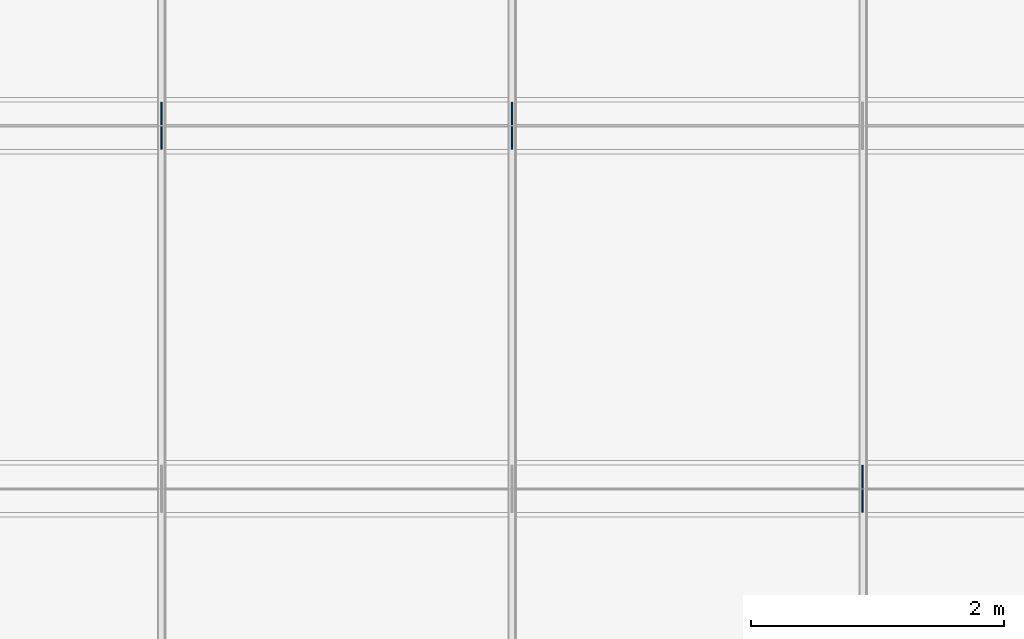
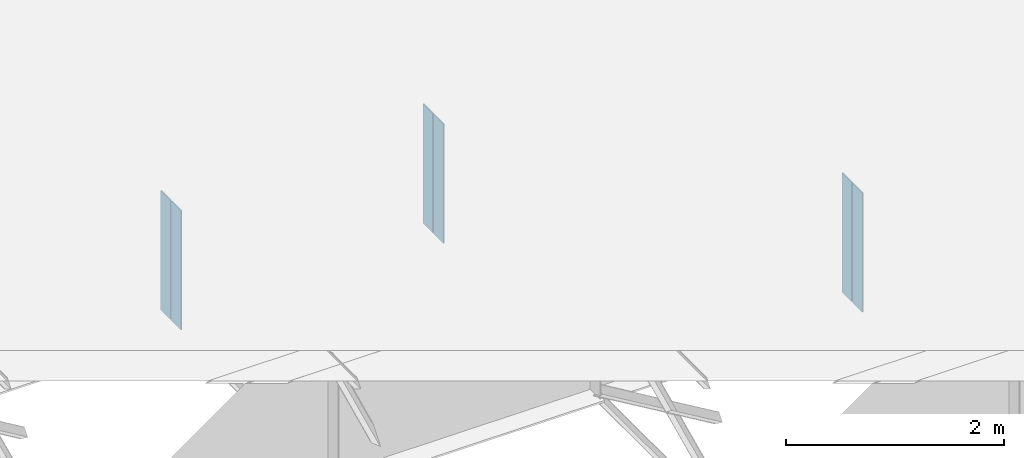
# One storey, part 6 of 10: 6 plates.
"""IFC4 building model written with IfcOpenShell, lengths in metres."""

import ifcopenshell
import ifcopenshell.guid

model = None  # the IFC model being written
_history = None  # IfcOwnerHistory: only IFC2X3 demands one
_inside = {}  # id of a spatial element -> (the spatial element, [elements in it])
_under = {}  # id of a project, library or spatial element -> (it, [spatial elements below it])
_declared = {}  # id of a project -> (the project, [libraries it declares])
_typed = {}  # id of a type object -> (the type object, [elements of that type])
_made_of = {}  # id of a material, layer set ... -> (it, [elements and type objects made of it])


def new_model(schema):
    """Start an empty IFC model of exactly this schema.

    Asked for "IFC4X3", IfcOpenShell would pick the latest addendum, in which some entities
    have other attributes; the version numbers below select the first issue.
    IFC2X3 requires an IfcOwnerHistory on every rooted entity: one is made here for all.
    """
    global model, _history
    if schema == "IFC4X3":
        model = ifcopenshell.file(schema_version=(4, 3, 0, 0))
    else:
        model = ifcopenshell.file(schema=schema)
    _inside.clear()
    _under.clear()
    _declared.clear()
    _typed.clear()
    _made_of.clear()
    _history = None
    if model.schema == "IFC2X3":
        org = make("IfcOrganization", Name="unknown")
        user = make(
            "IfcPersonAndOrganization",
            ThePerson=make("IfcPerson", FamilyName="unknown"),
            TheOrganization=org,
        )
        app = make(
            "IfcApplication",
            ApplicationDeveloper=org,
            Version="unknown",
            ApplicationFullName="unknown",
            ApplicationIdentifier="unknown",
        )
        _history = make(
            "IfcOwnerHistory",
            OwningUser=user,
            OwningApplication=app,
            ChangeAction="ADDED",
            CreationDate=0,
        )
    return model


def make(cls, **values):
    """One entity of the class cls with the attributes given. An attribute that is None is left unset."""
    return model.create_entity(
        cls, **{name: value for name, value in values.items() if value is not None}
    )


def rooted(cls, **values):
    """An entity with a GlobalId (a new one), such as an element, a storey or a relation."""
    return make(cls, GlobalId=ifcopenshell.guid.new(), OwnerHistory=_history, **values)


def si_unit(unit_type, name, prefix=None):
    """IfcSIUnit, for example si_unit("LENGTHUNIT", "METRE", prefix="MILLI")."""
    return make("IfcSIUnit", UnitType=unit_type, Prefix=prefix, Name=name)


def assignment(units):
    """IfcUnitAssignment: the units of a project."""
    return None if units is None else make("IfcUnitAssignment", Units=units)


def point(xyz):
    """IfcCartesianPoint."""
    return None if xyz is None else make("IfcCartesianPoint", Coordinates=xyz)


def direction(xyz):
    """IfcDirection."""
    return None if xyz is None else make("IfcDirection", DirectionRatios=xyz)


def frame(location, z_axis=None, x_axis=None):
    """IfcAxis2Placement3D, a coordinate frame: its origin and axes. An axis left out is left unset."""
    return make(
        "IfcAxis2Placement3D",
        Location=point(location),
        Axis=direction(z_axis),
        RefDirection=direction(x_axis),
    )


def frame_2d(location, x_axis=None):
    """IfcAxis2Placement2D, a coordinate frame in the plane: its origin and x axis."""
    return make(
        "IfcAxis2Placement2D", Location=point(location), RefDirection=direction(x_axis)
    )


def origin():
    """The frame at (0, 0, 0) with its axes left unset."""
    return frame((0.0, 0.0, 0.0))


def origin_with_axes():
    """The frame at (0, 0, 0) with the z axis (0, 0, 1) and the x axis (1, 0, 0) written out."""
    return frame((0.0, 0.0, 0.0), z_axis=(0.0, 0.0, 1.0), x_axis=(1.0, 0.0, 0.0))


def origin_2d_with_axis():
    """The frame at (0, 0) in the plane with the x axis (1, 0) written out."""
    return frame_2d((0.0, 0.0), x_axis=(1.0, 0.0))


def place(relative_to, where):
    """IfcLocalPlacement: puts the frame where relative to a parent placement (None: the world)."""
    return make(
        "IfcLocalPlacement", PlacementRelTo=relative_to, RelativePlacement=where
    )


def context(
    kind, dimensions, precision=None, world=None, true_north=None, identifier=None
):
    """IfcGeometricRepresentationContext, for example the 3D "Model" context."""
    return make(
        "IfcGeometricRepresentationContext",
        ContextIdentifier=identifier,
        ContextType=kind,
        CoordinateSpaceDimension=dimensions,
        Precision=precision,
        WorldCoordinateSystem=world,
        TrueNorth=true_north,
    )


def subcontext(parent, identifier, kind, view, scale=None):
    """IfcGeometricRepresentationSubContext, for example "Body" below "Model"."""
    return make(
        "IfcGeometricRepresentationSubContext",
        ContextIdentifier=identifier,
        ContextType=kind,
        ParentContext=parent,
        TargetScale=scale,
        TargetView=view,
    )


def project(units=None, contexts=None):
    """IfcProject with its units and contexts."""
    return rooted(
        "IfcProject",
        Name="project",
        RepresentationContexts=contexts,
        UnitsInContext=assignment(units),
    )


def spatial(cls, under=None, at=None, **own):
    """A site, building, storey or space (cls), placed at a placement, below another one or the project."""
    s = rooted(cls, ObjectPlacement=at, **own)
    if under is not None:
        _under.setdefault(under.id(), (under, []))[1].append(s)
    return s


def profile(cls, at=None, kind="AREA", **sizes):
    """A parametric profile (cls). Its sizes go by their IFC names, for example OverallWidth=200.0."""
    return make(cls, ProfileType=kind, Position=at, **sizes)


def rectangle(**sizes):
    """IfcRectangleProfileDef."""
    return profile("IfcRectangleProfileDef", **sizes)


def extrude(swept, where, along, depth):
    """IfcExtrudedAreaSolid: the profile swept, set in the frame where, extruded along a direction by depth."""
    return make(
        "IfcExtrudedAreaSolid",
        SweptArea=swept,
        Position=where,
        ExtrudedDirection=direction(along),
        Depth=depth,
    )


def shape(context_of_items, identifier, shape_type, items):
    """IfcShapeRepresentation: the items that make up one representation, for example the "Body"."""
    return make(
        "IfcShapeRepresentation",
        ContextOfItems=context_of_items,
        RepresentationIdentifier=identifier,
        RepresentationType=shape_type,
        Items=items,
    )


def made_of(thing, what):
    """Note that an element or type object is made of a material, layer set ...; save() writes the relation."""
    if what is not None:
        _made_of.setdefault(what.id(), (what, []))[1].append(thing)
    return thing


def element(
    cls,
    number,
    at=None,
    inside=None,
    cuts=None,
    type_object=None,
    material=None,
    context=None,
    identifier="Body",
    shape_type=None,
    held_by="IfcProductDefinitionShape",
    body=None,
    shapes=None,
    **own,
):
    """One element of the class cls, such as IfcWall. Its Tag is "e" and its number.

    at: its placement. inside: the storey or other place that contains it. cuts: it is an
    opening in that element (IfcRelVoidsElement). A single representation is given by context,
    identifier, shape_type and body (its items); several are given by shapes. held_by: the class
    of the entity that holds the representations. save() writes the other relations.
    """
    e = rooted(cls, Tag="e%d" % number, ObjectPlacement=at, **own)
    if body is not None:
        shapes = [shape(context, identifier, shape_type, body)]
    if shapes is not None:
        e.Representation = make(held_by, Representations=shapes)
    if inside is not None:
        _inside.setdefault(inside.id(), (inside, []))[1].append(e)
    if cuts is not None:
        rooted(
            "IfcRelVoidsElement", RelatingBuildingElement=cuts, RelatedOpeningElement=e
        )
    if type_object is not None:
        _typed.setdefault(type_object.id(), (type_object, []))[1].append(e)
    return made_of(e, material)


def aggregate(whole, parts):
    """IfcRelAggregates: a whole, such as a stair, and the parts it consists of."""
    return rooted("IfcRelAggregates", RelatingObject=whole, RelatedObjects=parts)


def save(model, path):
    """Write the relations noted so far, then the file.

    IfcRelAggregates (storeys below a building ...), IfcRelContainedInSpatialStructure (elements
    in a storey), IfcRelDefinesByType, IfcRelAssociatesMaterial and IfcRelDeclares: one each for
    every whole, place, type object, material and project.
    """
    for whole, parts in _under.values():
        aggregate(whole, parts)
    for where, things in _inside.values():
        rooted(
            "IfcRelContainedInSpatialStructure",
            RelatedElements=things,
            RelatingStructure=where,
        )
    for kind, things in _typed.values():
        rooted("IfcRelDefinesByType", RelatedObjects=things, RelatingType=kind)
    for what, things in _made_of.values():
        rooted("IfcRelAssociatesMaterial", RelatedObjects=things, RelatingMaterial=what)
    for by, libraries in _declared.values():
        rooted("IfcRelDeclares", RelatingContext=by, RelatedDefinitions=libraries)
    model.write(path)


model = new_model("IFC4")

# Units and contexts
model_context = context("Model", 3, precision=1e-05, world=origin())
body_context = subcontext(model_context, "Body", "Model", "MODEL_VIEW")
ifc_project = project(units=[si_unit("LENGTHUNIT", "METRE"), si_unit("AREAUNIT", "SQUARE_METRE"), si_unit("VOLUMEUNIT", "CUBIC_METRE"), si_unit("PLANEANGLEUNIT", "RADIAN")], contexts=[model_context])

# Site, building, storey
site_placement = place(None, origin_with_axes())
site = spatial("IfcSite", under=ifc_project, at=site_placement, Name="Default Site")
building_placement = place(site_placement, origin_with_axes())
building = spatial("IfcBuilding", under=site, at=building_placement, Name="Bridge Structure")
storey_placement = place(building_placement, origin_with_axes())
storey = spatial("IfcBuildingStorey", under=building, at=storey_placement, Name="Superstructure")

# Plates
for number, where, z_axis, x_axis, name in (
    (1, (13.885, -1.34075, -0.6685), (0.0, 0.0, 1.0), (1.0, 0.0, 0.0), "Intermediate Stiffener 2"),
    (2, (13.885, -1.5342500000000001, -0.6685), (0.0, 0.0, 1.0), (1.0, 0.0, 0.0), "Intermediate Stiffener 2"),
    (3, (8.331, 1.5342500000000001, -0.6685), (0.0, 0.0, 1.0), (1.0, 0.0, 0.0), "Intermediate Stiffener 3"),
    (4, (8.331, 1.34075, -0.6685), (0.0, 0.0, 1.0), (1.0, 0.0, 0.0), "Intermediate Stiffener 3"),
    (5, (11.108, 1.5342500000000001, -0.6685), (0.0, 0.0, 1.0), (1.0, 0.0, 0.0), "Intermediate Stiffener 3"),
    (6, (11.108, 1.34075, -0.6685), (0.0, 0.0, 1.0), (1.0, 0.0, 0.0), "Intermediate Stiffener 3"),
):
    element("IfcPlate", number, at=place(storey_placement, frame(where, z_axis=z_axis, x_axis=x_axis)), inside=storey, Name=name, context=body_context, shape_type="SweptSolid", body=[
        extrude(rectangle(XDim=0.012, YDim=0.1815, at=origin_2d_with_axis()), origin_with_axes(), (0.0, 0.0, 1.0), 1.337),
    ])

save(model, "model.ifc")
